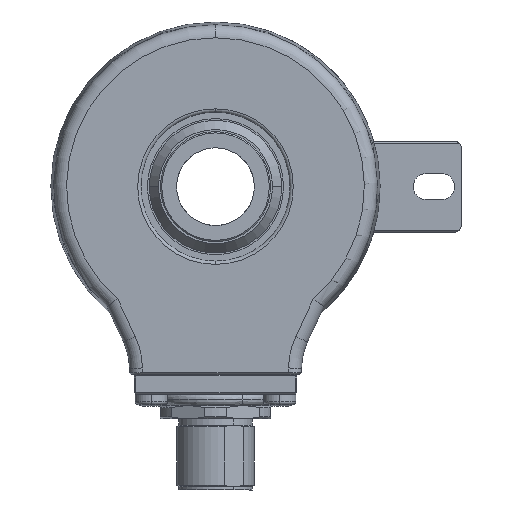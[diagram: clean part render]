
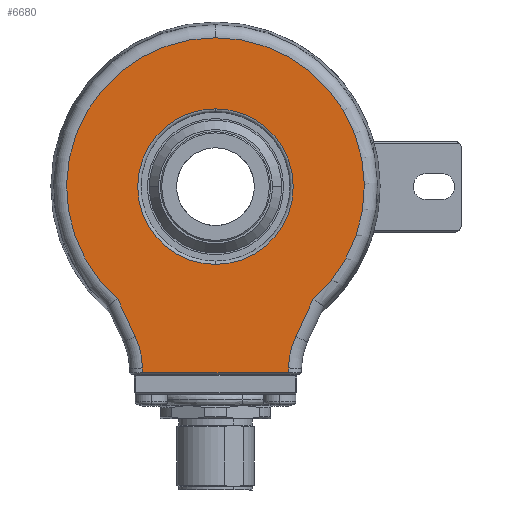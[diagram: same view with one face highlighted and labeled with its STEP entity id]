
A CAD part, left-side view. The second image highlights one B-rep face of the part: STEP entity #6680.
In plain terms, the highlighted planar face has unit normal (-1, 0, 0).
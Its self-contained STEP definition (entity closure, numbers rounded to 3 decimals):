
#583 = EDGE_CURVE ( 'NONE', #16095, #1230, #12758, .T. ) ;
#762 = VERTEX_POINT ( 'NONE', #21083 ) ;
#1230 = VERTEX_POINT ( 'NONE', #2365 ) ;
#1314 = CARTESIAN_POINT ( 'NONE',  ( -21., -23.266, -28.183 ) ) ;
#1347 = ORIENTED_EDGE ( 'NONE', *, *, #20710, .T. ) ;
#1537 = DIRECTION ( 'NONE',  ( 0., -0.423, -0.906 ) ) ;
#2365 = CARTESIAN_POINT ( 'NONE',  ( -21., 0., -12. ) ) ;
#2462 = AXIS2_PLACEMENT_3D ( 'NONE', #11050, #11221, #11308 ) ;
#2489 = EDGE_CURVE ( 'NONE', #762, #24374, #13002, .T. ) ;
#2553 = ORIENTED_EDGE ( 'NONE', *, *, #13808, .T. ) ;
#2909 = CARTESIAN_POINT ( 'NONE',  ( -21., -15.091, -17.32 ) ) ;
#3173 = FACE_OUTER_BOUND ( 'NONE', #18953, .T. ) ;
#3304 = DIRECTION ( 'NONE',  ( 0., 0., 1. ) ) ;
#3414 = VERTEX_POINT ( 'NONE', #2909 ) ;
#3904 = VERTEX_POINT ( 'NONE', #20237 ) ;
#4852 = CIRCLE ( 'NONE', #11739, 22.972 ) ;
#5069 = VERTEX_POINT ( 'NONE', #10552 ) ;
#5485 = CARTESIAN_POINT ( 'NONE',  ( -21., 0., 22.972 ) ) ;
#6210 = CARTESIAN_POINT ( 'NONE',  ( -21., 0., 0. ) ) ;
#6680 = ADVANCED_FACE ( 'NONE', ( #9100, #3173 ), #25234, .F. ) ;
#6792 = DIRECTION ( 'NONE',  ( 1., 0., 0. ) ) ;
#6824 = DIRECTION ( 'NONE',  ( -1., 0., 0. ) ) ;
#7291 = EDGE_CURVE ( 'NONE', #21818, #762, #23732, .T. ) ;
#7414 = CARTESIAN_POINT ( 'NONE',  ( -21., -14.953, -17.615 ) ) ;
#7442 = EDGE_LOOP ( 'NONE', ( #23082, #8004 ) ) ;
#7717 = ORIENTED_EDGE ( 'NONE', *, *, #2489, .T. ) ;
#7758 = CIRCLE ( 'NONE', #8649, 12. ) ;
#7845 = CARTESIAN_POINT ( 'NONE',  ( -21., 11.752, -0.205 ) ) ;
#7982 = CIRCLE ( 'NONE', #9565, 12. ) ;
#8004 = ORIENTED_EDGE ( 'NONE', *, *, #25154, .T. ) ;
#8216 = DIRECTION ( 'NONE',  ( 0., 0., 1. ) ) ;
#8649 = AXIS2_PLACEMENT_3D ( 'NONE', #1314, #15222, #3304 ) ;
#8717 = CARTESIAN_POINT ( 'NONE',  ( -21., -11.268, -27.974 ) ) ;
#8754 = LINE ( 'NONE', #7414, #9401 ) ;
#8989 = AXIS2_PLACEMENT_3D ( 'NONE', #9115, #23057, #11128 ) ;
#9094 = CIRCLE ( 'NONE', #11687, 22.972 ) ;
#9100 = FACE_BOUND ( 'NONE', #7442, .T. ) ;
#9115 = CARTESIAN_POINT ( 'NONE',  ( -21., 23.266, -28.183 ) ) ;
#9401 = VECTOR ( 'NONE', #19343, 1000. ) ;
#9478 = CARTESIAN_POINT ( 'NONE',  ( -21., 12.39, -23.112 ) ) ;
#9565 = AXIS2_PLACEMENT_3D ( 'NONE', #6210, #20156, #8216 ) ;
#10007 = EDGE_CURVE ( 'NONE', #3904, #11968, #15985, .T. ) ;
#10074 = VECTOR ( 'NONE', #16009, 1000. ) ;
#10552 = CARTESIAN_POINT ( 'NONE',  ( -21., -12.39, -23.112 ) ) ;
#11050 = CARTESIAN_POINT ( 'NONE',  ( -21., 0., 0. ) ) ;
#11112 = ORIENTED_EDGE ( 'NONE', *, *, #25314, .T. ) ;
#11122 = EDGE_CURVE ( 'NONE', #25255, #21818, #20004, .T. ) ;
#11128 = DIRECTION ( 'NONE',  ( 0., 0., 1. ) ) ;
#11221 = DIRECTION ( 'NONE',  ( 1., 0., 0. ) ) ;
#11308 = DIRECTION ( 'NONE',  ( 0., 0., 1. ) ) ;
#11672 = DIRECTION ( 'NONE',  ( -1., 0., 0. ) ) ;
#11687 = AXIS2_PLACEMENT_3D ( 'NONE', #23614, #11672, #25591 ) ;
#11739 = AXIS2_PLACEMENT_3D ( 'NONE', #18727, #6824, #20776 ) ;
#11968 = VERTEX_POINT ( 'NONE', #8717 ) ;
#12758 = CIRCLE ( 'NONE', #2462, 12. ) ;
#12788 = CARTESIAN_POINT ( 'NONE',  ( -21., 11.255, -28.695 ) ) ;
#13002 = LINE ( 'NONE', #7845, #22978 ) ;
#13808 = EDGE_CURVE ( 'NONE', #11968, #5069, #7758, .T. ) ;
#13876 = VERTEX_POINT ( 'NONE', #5485 ) ;
#14098 = CARTESIAN_POINT ( 'NONE',  ( -21., -11.752, -0.205 ) ) ;
#14692 = VECTOR ( 'NONE', #1537, 1000. ) ;
#15222 = DIRECTION ( 'NONE',  ( 1., 0., 0. ) ) ;
#15259 = EDGE_CURVE ( 'NONE', #24374, #3904, #22403, .T. ) ;
#15985 = LINE ( 'NONE', #14098, #10074 ) ;
#16009 = DIRECTION ( 'NONE',  ( 0., -0.017, 1. ) ) ;
#16095 = VERTEX_POINT ( 'NONE', #23870 ) ;
#16456 = CARTESIAN_POINT ( 'NONE',  ( -21., 15.091, -17.32 ) ) ;
#18698 = CARTESIAN_POINT ( 'NONE',  ( -21., 0., 0. ) ) ;
#18727 = CARTESIAN_POINT ( 'NONE',  ( -21., 0., 0. ) ) ;
#18953 = EDGE_LOOP ( 'NONE', ( #7717, #21488, #25136, #2553, #1347, #22739, #11112, #22294, #19444 ) ) ;
#19343 = DIRECTION ( 'NONE',  ( 0., -0.423, 0.906 ) ) ;
#19444 = ORIENTED_EDGE ( 'NONE', *, *, #7291, .T. ) ;
#19774 = DIRECTION ( 'NONE',  ( 0., -0.017, -1. ) ) ;
#19833 = AXIS2_PLACEMENT_3D ( 'NONE', #18698, #6792, #20747 ) ;
#20004 = LINE ( 'NONE', #9478, #14692 ) ;
#20156 = DIRECTION ( 'NONE',  ( 1., 0., 0. ) ) ;
#20237 = CARTESIAN_POINT ( 'NONE',  ( -21., -11.255, -28.695 ) ) ;
#20710 = EDGE_CURVE ( 'NONE', #5069, #3414, #8754, .T. ) ;
#20747 = DIRECTION ( 'NONE',  ( 0., 0., 1. ) ) ;
#20776 = DIRECTION ( 'NONE',  ( 0., 0., 1. ) ) ;
#21083 = CARTESIAN_POINT ( 'NONE',  ( -21., 11.268, -27.974 ) ) ;
#21252 = EDGE_CURVE ( 'NONE', #3414, #13876, #9094, .T. ) ;
#21488 = ORIENTED_EDGE ( 'NONE', *, *, #15259, .T. ) ;
#21792 = VECTOR ( 'NONE', #24181, 1000. ) ;
#21818 = VERTEX_POINT ( 'NONE', #23823 ) ;
#22159 = CARTESIAN_POINT ( 'NONE',  ( -21., -11.25, -28.695 ) ) ;
#22294 = ORIENTED_EDGE ( 'NONE', *, *, #11122, .T. ) ;
#22403 = LINE ( 'NONE', #22159, #21792 ) ;
#22739 = ORIENTED_EDGE ( 'NONE', *, *, #21252, .T. ) ;
#22978 = VECTOR ( 'NONE', #19774, 1000. ) ;
#23057 = DIRECTION ( 'NONE',  ( 1., 0., 0. ) ) ;
#23082 = ORIENTED_EDGE ( 'NONE', *, *, #583, .T. ) ;
#23614 = CARTESIAN_POINT ( 'NONE',  ( -21., 0., 0. ) ) ;
#23732 = CIRCLE ( 'NONE', #8989, 12. ) ;
#23823 = CARTESIAN_POINT ( 'NONE',  ( -21., 12.39, -23.112 ) ) ;
#23870 = CARTESIAN_POINT ( 'NONE',  ( -21., 0., 12. ) ) ;
#24181 = DIRECTION ( 'NONE',  ( 0., -1., 0. ) ) ;
#24374 = VERTEX_POINT ( 'NONE', #12788 ) ;
#25136 = ORIENTED_EDGE ( 'NONE', *, *, #10007, .T. ) ;
#25154 = EDGE_CURVE ( 'NONE', #1230, #16095, #7982, .T. ) ;
#25234 = PLANE ( 'NONE',  #19833 ) ;
#25255 = VERTEX_POINT ( 'NONE', #16456 ) ;
#25314 = EDGE_CURVE ( 'NONE', #13876, #25255, #4852, .T. ) ;
#25591 = DIRECTION ( 'NONE',  ( 0., 0., 1. ) ) ;
